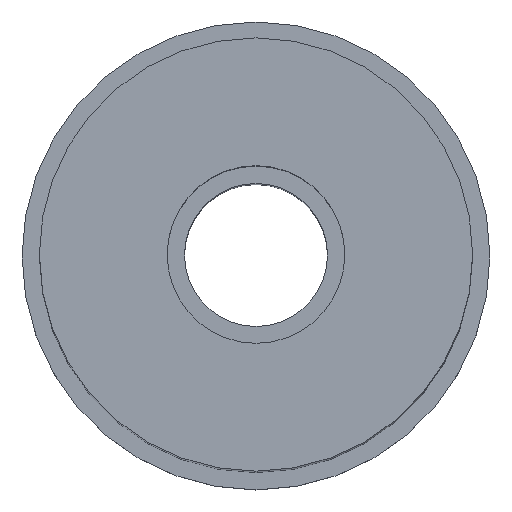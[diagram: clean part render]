
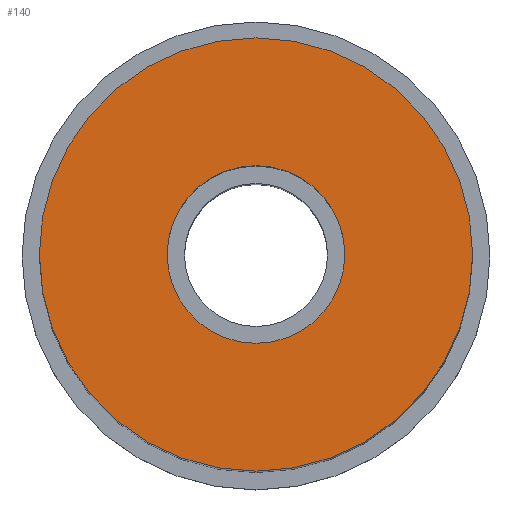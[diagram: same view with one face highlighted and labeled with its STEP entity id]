
A CAD part, top view. The second image highlights one B-rep face of the part: STEP entity #140.
In plain terms, the highlighted planar face has unit normal (0, 0, 1).
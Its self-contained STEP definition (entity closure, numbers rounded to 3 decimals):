
#24 = VERTEX_POINT('',#25);
#25 = CARTESIAN_POINT('',(5.,0.,20.));
#32 = CYLINDRICAL_SURFACE('',#33,5.);
#33 = AXIS2_PLACEMENT_3D('',#34,#35,#36);
#34 = CARTESIAN_POINT('',(0.,0.,0.));
#35 = DIRECTION('',(0.,0.,1.));
#36 = DIRECTION('',(1.,0.,-0.));
#51 = EDGE_CURVE('',#24,#24,#52,.T.);
#52 = SURFACE_CURVE('',#53,(#58,#65),.PCURVE_S1.);
#53 = CIRCLE('',#54,5.);
#54 = AXIS2_PLACEMENT_3D('',#55,#56,#57);
#55 = CARTESIAN_POINT('',(0.,0.,20.));
#56 = DIRECTION('',(0.,0.,1.));
#57 = DIRECTION('',(1.,0.,-0.));
#58 = PCURVE('',#32,#59);
#59 = DEFINITIONAL_REPRESENTATION('',(#60),#64);
#60 = LINE('',#61,#62);
#61 = CARTESIAN_POINT('',(0.,20.));
#62 = VECTOR('',#63,1.);
#63 = DIRECTION('',(1.,0.));
#64 = ( GEOMETRIC_REPRESENTATION_CONTEXT(2) 
PARAMETRIC_REPRESENTATION_CONTEXT() REPRESENTATION_CONTEXT('2D SPACE',''
  ) );
#65 = PCURVE('',#66,#71);
#66 = PLANE('',#67);
#67 = AXIS2_PLACEMENT_3D('',#68,#69,#70);
#68 = CARTESIAN_POINT('',(0.,0.,20.));
#69 = DIRECTION('',(0.,0.,1.));
#70 = DIRECTION('',(1.,0.,-0.));
#71 = DEFINITIONAL_REPRESENTATION('',(#72),#76);
#72 = CIRCLE('',#73,5.);
#73 = AXIS2_PLACEMENT_2D('',#74,#75);
#74 = CARTESIAN_POINT('',(0.,0.));
#75 = DIRECTION('',(1.,0.));
#76 = ( GEOMETRIC_REPRESENTATION_CONTEXT(2) 
PARAMETRIC_REPRESENTATION_CONTEXT() REPRESENTATION_CONTEXT('2D SPACE',''
  ) );
#140 = ADVANCED_FACE('',(#141,#144),#66,.T.);
#141 = FACE_BOUND('',#142,.T.);
#142 = EDGE_LOOP('',(#143));
#143 = ORIENTED_EDGE('',*,*,#51,.T.);
#144 = FACE_BOUND('',#145,.T.);
#145 = EDGE_LOOP('',(#146));
#146 = ORIENTED_EDGE('',*,*,#147,.F.);
#147 = EDGE_CURVE('',#148,#148,#150,.T.);
#148 = VERTEX_POINT('',#149);
#149 = CARTESIAN_POINT('',(2.05,0.,20.));
#150 = SURFACE_CURVE('',#151,(#156,#163),.PCURVE_S1.);
#151 = CIRCLE('',#152,2.05);
#152 = AXIS2_PLACEMENT_3D('',#153,#154,#155);
#153 = CARTESIAN_POINT('',(0.,0.,20.));
#154 = DIRECTION('',(0.,0.,1.));
#155 = DIRECTION('',(1.,0.,-0.));
#156 = PCURVE('',#66,#157);
#157 = DEFINITIONAL_REPRESENTATION('',(#158),#162);
#158 = CIRCLE('',#159,2.05);
#159 = AXIS2_PLACEMENT_2D('',#160,#161);
#160 = CARTESIAN_POINT('',(0.,0.));
#161 = DIRECTION('',(1.,0.));
#162 = ( GEOMETRIC_REPRESENTATION_CONTEXT(2) 
PARAMETRIC_REPRESENTATION_CONTEXT() REPRESENTATION_CONTEXT('2D SPACE',''
  ) );
#163 = PCURVE('',#164,#169);
#164 = CYLINDRICAL_SURFACE('',#165,2.05);
#165 = AXIS2_PLACEMENT_3D('',#166,#167,#168);
#166 = CARTESIAN_POINT('',(0.,0.,14.));
#167 = DIRECTION('',(0.,0.,1.));
#168 = DIRECTION('',(1.,0.,-0.));
#169 = DEFINITIONAL_REPRESENTATION('',(#170),#174);
#170 = LINE('',#171,#172);
#171 = CARTESIAN_POINT('',(0.,6.));
#172 = VECTOR('',#173,1.);
#173 = DIRECTION('',(1.,0.));
#174 = ( GEOMETRIC_REPRESENTATION_CONTEXT(2) 
PARAMETRIC_REPRESENTATION_CONTEXT() REPRESENTATION_CONTEXT('2D SPACE',''
  ) );
